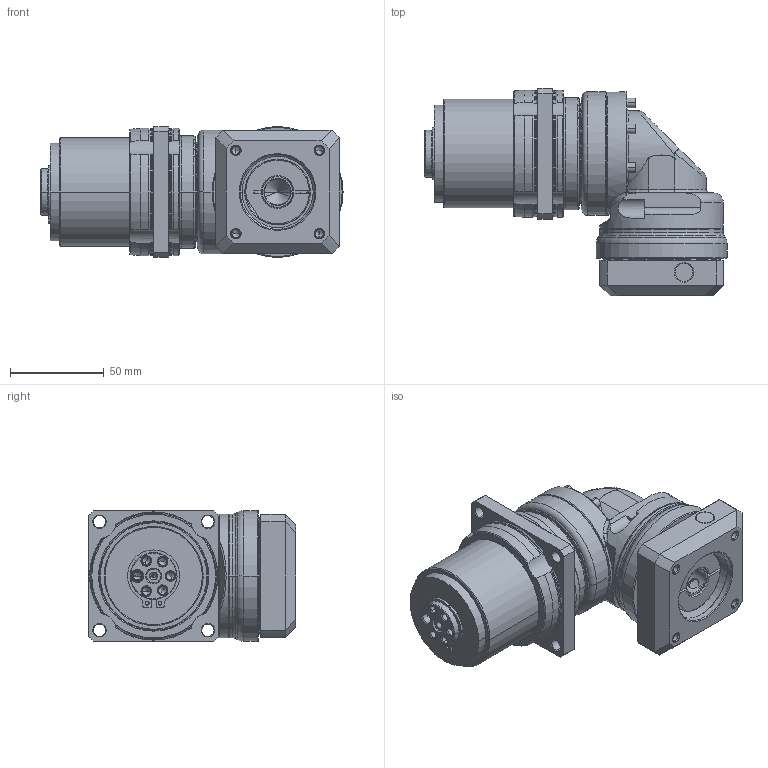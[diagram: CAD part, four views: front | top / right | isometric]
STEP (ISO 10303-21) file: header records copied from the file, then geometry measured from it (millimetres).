
FILE_DESCRIPTION((''),'2;1');
FILE_NAME('PLR070_2ST_14-P0411300101_ASM','2016-06-21T',('d00435'),(''),'PRO/ENGINEER BY PARAMETRIC TECHNOLOGY CORPORATION, 2008410','PRO/ENGINEER BY PARAMETRIC TECHNOLOGY CORPORATION, 2008410','');
FILE_SCHEMA(('CONFIG_CONTROL_DESIGN'));
Length unit declared in the file: millimetre
Products named in the file (12): P0272200001; P0366200001; 22802000015; P1356200001; P0274200001; P1349200001; P1017210001; P1350200201; P0503300005; P0713200201; P0411300101; PLR070_2ST_14-P0411300101_ASM
Assembly tree (11 placements, depth 2):
  PLR070_2ST_14-P0411300101_ASM
    P0272200001
    P0366200001
    22802000015
    P1356200001
    P0274200001
    P1349200001
    P1017210001
    P1350200201
    P0503300005
    P0713200201
    P0411300101
Bounding box: 161.5 x 111 x 70 mm (x, y, z)
Volume: 503857.1 mm3; surface area: 132415.3 mm2
Topology: 11 solids, 32 shells, 743 faces, 1761 edges, 1061 vertices
Faces by surface type: cylinder 247, cone 230, plane 138, torus 96, bspline 32
Entity records: 24516 total; most frequent: CARTESIAN_POINT 7320, DIRECTION 3786, ORIENTED_EDGE 3326, EDGE_CURVE 1705, AXIS2_PLACEMENT_3D 1601, VERTEX_POINT 1061, CIRCLE 857, EDGE_LOOP 844
